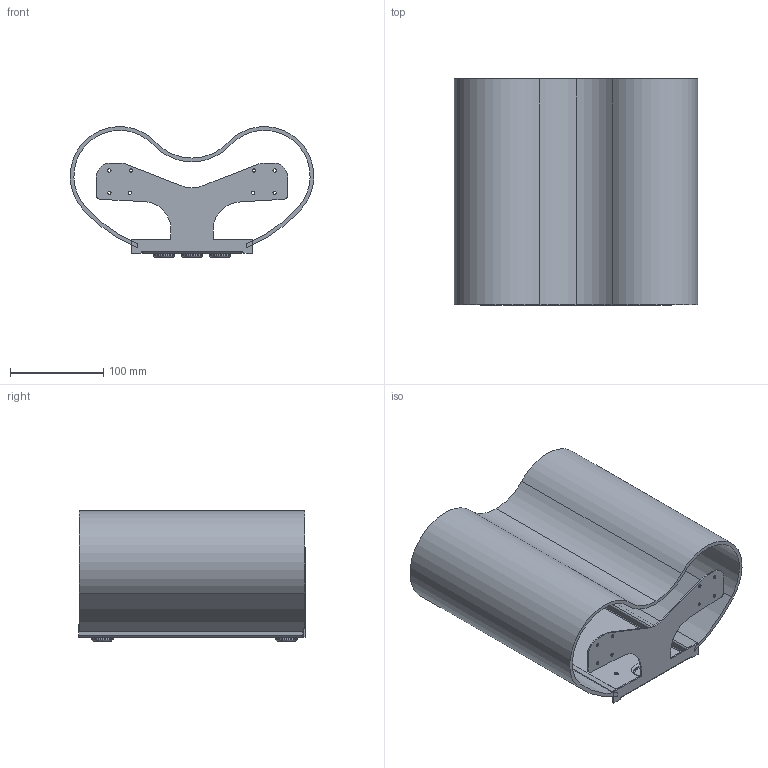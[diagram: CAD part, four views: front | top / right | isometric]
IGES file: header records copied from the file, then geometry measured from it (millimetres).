
Start section: SolidWorks IGES file using analytic representation for surfaces
Global section: file name: X:\stage\DOUBLE\DOUBLE.IGS; native system: SolidWorks 2006 by SolidWorks Corporation; preprocessor: SolidWorks 2006 by SolidWorks Corporation; author: stagetec; date: 060919.163144; units: millimetre
Bounding box: 260.93 x 242.24 x 139.97 mm (x, y, z)
Volume: 601986 mm3; surface area: 366835.8 mm2
Topology: 2 solids, 2 shells, 194 faces, 472 edges, 292 vertices
Faces by surface type: revolution 123, plane 71
